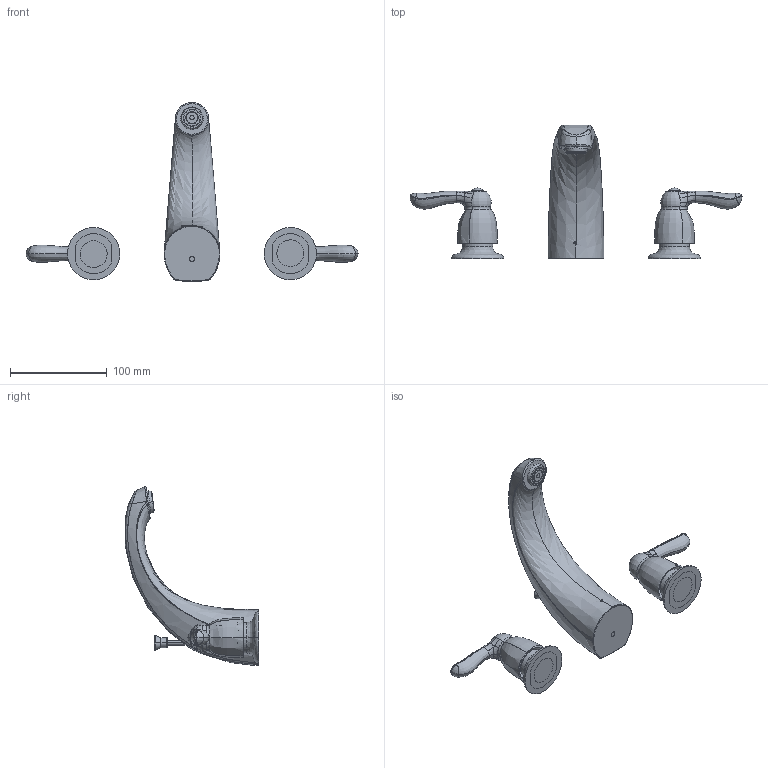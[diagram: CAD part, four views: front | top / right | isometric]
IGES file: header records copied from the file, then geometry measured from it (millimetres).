
Start section:  PTC IGES file: sku_4945.igs
Global section: file name: sku_4945.igs; native system: Pro/ENGINEER by Parametric Technology Corporation; preprocessor: 2006460; author: 9dutterb; organization: Unknown; date: 20071214.163636; units: inch
Bounding box: 342.88 x 137.91 x 184.96 mm (x, y, z)
Surface area: 91301.4 mm2 (no closed solid volume)
Topology: 0 solids, 0 shells, 404 faces, 1994 edges, 1984 vertices
Faces by surface type: bspline 281, revolution 123
